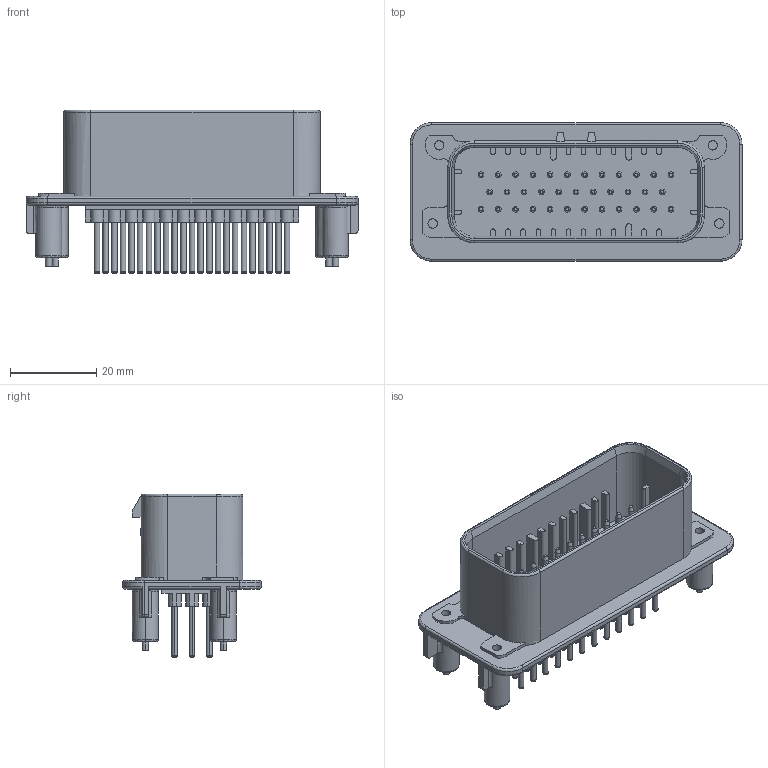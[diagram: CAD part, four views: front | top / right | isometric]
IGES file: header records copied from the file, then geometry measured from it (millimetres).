
Start section:  PTC IGES file: c-0776230-15-a-3d.igs
Global section: file name: c-0776230-15-a-3d.igs; native system: Pro/ENGINEER by Parametric Technology Corporation; preprocessor: 2005450; author: workeradm; organization: Unknown; date: 070902.103204; units: millimetre
Bounding box: 76.9 x 32.1 x 37.97 mm (x, y, z)
Surface area: 17501.1 mm2 (no closed solid volume)
Topology: 0 solids, 0 shells, 905 faces, 4394 edges, 4394 vertices
Faces by surface type: revolution 555, bspline 348, extrusion 2
